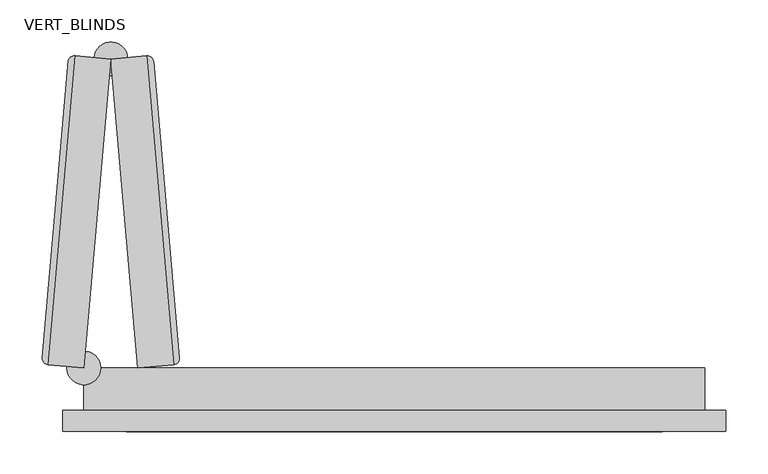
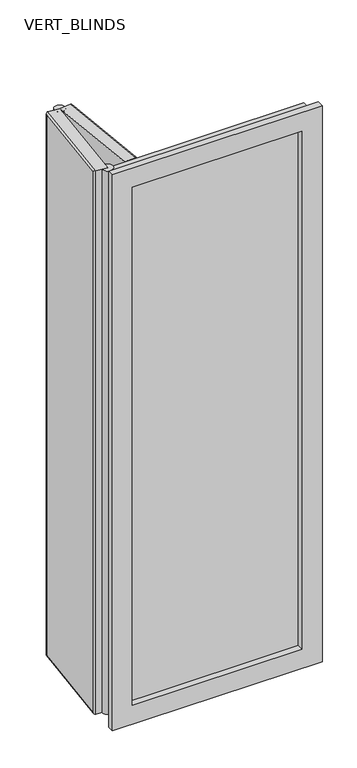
"""IFC4 building model written with IfcOpenShell, lengths in millimetres: plate geometry, CURTAIN PANEL VODA STYLE BIFOLDING : VERT_BLINDS."""

from ifc_helpers import new_model, si_unit, point, frame, frame_2d, origin, place, context, project, spatial, polyline, circle_curve, ellipse_curve, trimmed, segment, composite_curve, outline, extrude, faceted_brep, source, transform, mapped, element, save
from ifc_brep_helpers import plane_surface, cylinder_surface, advanced_brep


def vert_blinds_629a2b83(model_context):
    return source(origin(), model_context, "Body", "SolidModel", [
        advanced_brep(
        [(-367.2136473, 50.0, 2175.0), (-335.2088691, 415.8162885, 2175.0), (-377.5471438, 419.5204075, 2175.0), (-409.5519219, 53.7041191, 2175.0), (-335.2088691, 415.8162885, 25.0), (-367.2136473, 50.0, 25.0), (-409.5519219, 53.7041191, 25.0), (-377.5471438, 419.5204075, 25.0), (-416.3697141, 61.8292474, 32.5), (-416.3697141, 61.8292474, 2167.5), (-385.6722721, 412.7026154, 2167.5), (-385.6722721, 412.7026154, 32.5)],
        [
            (0, 1),
            (1, 2),
            (2, 3),
            (3, 0),
            (4, 5),
            (5, 6),
            (6, 7),
            (7, 4),
            (1, 4),
            (7, 2),
            (8, 9),
            (9, 10),
            (10, 11),
            (11, 8),
            (5, 0),
            (3, 6),
            (8, 6, ellipse_curve(frame((-408.8982539, 61.1755793, 32.5), z_axis=(-0.061628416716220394, -0.7044160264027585, 0.7071067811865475), x_axis=(-0.061628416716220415, -0.7044160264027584, -0.7071067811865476)), 10.6066017, 7.5)),
            (3, 9, ellipse_curve(frame((-408.8982539, 61.1755793, 2167.5), z_axis=(-0.061628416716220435, -0.7044160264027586, -0.7071067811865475), x_axis=(0.061628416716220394, 0.7044160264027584, -0.7071067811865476)), 10.6066017, 7.5)),
            (11, 7, ellipse_curve(frame((-378.2008118, 412.0489473, 32.5), z_axis=(-0.061628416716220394, -0.7044160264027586, -0.7071067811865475), x_axis=(0.061628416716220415, 0.7044160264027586, -0.7071067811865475)), 10.6066017, 7.5)),
            (10, 2, ellipse_curve(frame((-378.2008118, 412.0489473, 2167.5), z_axis=(0.06162841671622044, 0.7044160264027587, -0.7071067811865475), x_axis=(0.061628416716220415, 0.7044160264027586, 0.7071067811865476)), 10.6066017, 7.5)),
        ],
        [
            plane_surface(frame((-385.018604, 420.1740756, 2175.0), z_axis=(0.0, 0.0, 1.0), x_axis=(-0.9961946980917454, 0.0871557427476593, 0.0))),
            plane_surface(frame((-385.018604, 420.1740756, 25.0), z_axis=(0.0, 0.0, -1.0), x_axis=(0.9961946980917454, -0.0871557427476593, 0.0))),
            plane_surface(frame((-335.2088691, 415.8162885, 2175.0), z_axis=(0.0871557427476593, 0.9961946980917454, 0.0), x_axis=(0.0, 0.0, -1.0))),
            plane_surface(frame((-385.018604, 420.1740756, 2175.0), z_axis=(-0.9961946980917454, 0.08715574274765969, 0.0), x_axis=(0.0, 0.0, -1.0))),
            plane_surface(frame((-417.0233822, 54.3577871, 2175.0), z_axis=(-0.08715574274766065, -0.9961946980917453, 0.0), x_axis=(0.0, 0.0, -1.0))),
            plane_surface(frame((-367.2136473, 50.0, 2175.0), z_axis=(0.9961946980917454, -0.08715574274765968, 0.0), x_axis=(0.0, 0.0, -1.0))),
            cylinder_surface(frame((-408.8982539, 61.1755793, 2175.0), z_axis=(0.0, 0.0, -1.0), x_axis=(0.9961946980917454, -0.08715574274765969, 0.0)), 7.5),
            cylinder_surface(frame((-409.5519219, 53.7041191, 32.5), z_axis=(0.08715574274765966, 0.9961946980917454, 0.0), x_axis=(0.9961946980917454, -0.08715574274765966, 0.0)), 7.5),
            cylinder_surface(frame((-378.2008118, 412.0489473, 25.0), z_axis=(0.0, 0.0, 1.0), x_axis=(0.9961946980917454, -0.08715574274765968, 0.0)), 7.5),
            cylinder_surface(frame((-377.5471438, 419.5204075, 2167.5), z_axis=(-0.08715574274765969, -0.9961946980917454, 0.0), x_axis=(0.9961946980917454, -0.08715574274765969, 0.0)), 7.5),
        ],
        [
            (0, [[1, 2, 3, 4]]),
            (1, [[5, 6, 7, 8]]),
            (2, [[9, -8, 10, -2]]),
            (3, [[11, 12, 13, 14]]),
            (4, [[15, -4, 16, -6]]),
            (5, [[-1, -15, -5, -9]]),
            (6, [[17, -16, 18, -11]]),
            (7, [[-17, -14, 19, -7]]),
            (8, [[-19, -13, 20, -10]]),
            (9, [[-18, -3, -20, -12]]),
        ],
    ),
        advanced_brep(
        [(-335.2088691, 415.8162885, 2175.0), (-303.2040909, 50.0, 2175.0), (-260.8658162, 53.7041191, 2175.0), (-292.8705944, 419.5204075, 2175.0), (-303.2040909, 50.0, 25.0), (-335.2088691, 415.8162885, 25.0), (-292.8705944, 419.5204075, 25.0), (-260.8658162, 53.7041191, 25.0), (-284.7454661, 412.7026154, 32.5), (-284.7454661, 412.7026154, 2167.5), (-254.0480241, 61.8292474, 2167.5), (-254.0480241, 61.8292474, 32.5)],
        [
            (0, 1),
            (1, 2),
            (2, 3),
            (3, 0),
            (4, 5),
            (5, 6),
            (6, 7),
            (7, 4),
            (1, 4),
            (7, 2),
            (8, 9),
            (9, 10),
            (10, 11),
            (11, 8),
            (5, 0),
            (3, 6),
            (8, 6, ellipse_curve(frame((-292.2169263, 412.0489473, 32.5), z_axis=(-0.06162841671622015, 0.7044160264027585, 0.7071067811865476), x_axis=(-0.06162841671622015, 0.7044160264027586, -0.7071067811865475)), 10.6066017, 7.5)),
            (3, 9, ellipse_curve(frame((-292.2169263, 412.0489473, 2167.5), z_axis=(-0.061628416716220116, 0.7044160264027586, -0.7071067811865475), x_axis=(0.06162841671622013, -0.7044160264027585, -0.7071067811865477)), 10.6066017, 7.5)),
            (11, 7, ellipse_curve(frame((-261.5194843, 61.1755793, 32.5), z_axis=(-0.06162841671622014, 0.7044160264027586, -0.7071067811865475), x_axis=(0.06162841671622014, -0.7044160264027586, -0.7071067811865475)), 10.6066017, 7.5)),
            (10, 2, ellipse_curve(frame((-261.5194843, 61.1755793, 2167.5), z_axis=(0.06162841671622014, -0.7044160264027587, -0.7071067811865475), x_axis=(0.06162841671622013, -0.7044160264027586, 0.7071067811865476)), 10.6066017, 7.5)),
        ],
        [
            plane_surface(frame((-253.394356, 54.3577871, 2175.0), z_axis=(0.0, 0.0, 1.0), x_axis=(0.9961946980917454, 0.08715574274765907, 0.0))),
            plane_surface(frame((-253.394356, 54.3577871, 25.0), z_axis=(0.0, 0.0, -1.0), x_axis=(-0.9961946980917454, -0.08715574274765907, 0.0))),
            plane_surface(frame((-303.2040909, 50.0, 2175.0), z_axis=(0.08715574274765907, -0.9961946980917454, 0.0), x_axis=(0.0, 0.0, -1.0))),
            plane_surface(frame((-253.394356, 54.3577871, 2175.0), z_axis=(0.9961946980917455, 0.08715574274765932, 0.0), x_axis=(0.0, 0.0, -1.0))),
            plane_surface(frame((-285.3991342, 420.1740756, 2175.0), z_axis=(-0.08715574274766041, 0.9961946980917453, 0.0), x_axis=(0.0, 0.0, -1.0))),
            plane_surface(frame((-335.2088691, 415.8162885, 2175.0), z_axis=(-0.9961946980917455, -0.08715574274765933, 0.0), x_axis=(0.0, 0.0, -1.0))),
            cylinder_surface(frame((-292.2169263, 412.0489473, 2175.0), z_axis=(0.0, 0.0, -1.0000000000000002), x_axis=(-0.9961946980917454, -0.08715574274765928, 0.0)), 7.5),
            cylinder_surface(frame((-292.8705944, 419.5204075, 32.5), z_axis=(0.08715574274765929, -0.9961946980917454, 0.0), x_axis=(-0.9961946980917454, -0.08715574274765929, 0.0)), 7.5),
            cylinder_surface(frame((-261.5194843, 61.1755793, 25.0), z_axis=(0.0, 0.0, 1.0000000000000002), x_axis=(-0.9961946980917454, -0.08715574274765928, 0.0)), 7.5),
            cylinder_surface(frame((-260.8658162, 53.7041191, 2167.5), z_axis=(-0.08715574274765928, 0.9961946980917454, 0.0), x_axis=(-0.9961946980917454, -0.08715574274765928, 0.0)), 7.5),
        ],
        [
            (0, [[1, 2, 3, 4]]),
            (1, [[5, 6, 7, 8]]),
            (2, [[9, -8, 10, -2]]),
            (3, [[11, 12, 13, 14]]),
            (4, [[15, -4, 16, -6]]),
            (5, [[-1, -15, -5, -9]]),
            (6, [[17, -16, 18, -11]]),
            (7, [[-17, -14, 19, -7]]),
            (8, [[-19, -13, 20, -10]]),
            (9, [[-18, -3, -20, -12]]),
        ],
    ),
        extrude(outline(composite_curve([segment(trimmed(circle_curve(frame_2d((-367.2136473, 50.0)), 20.0), [point((-387.2136473, 50.0))], [point((-347.2136473, 50.0))], False, "CARTESIAN"), True, "CONTINUOUS"), segment(trimmed(circle_curve(frame_2d((-367.2136473, 50.0)), 20.0), [point((-347.2136473, 50.0))], [point((-387.2136473, 50.0))], False, "CARTESIAN"), True, "CONTINUOUS")], self_intersect=False)), frame((0.0, 0.0, 25.0), z_axis=(0.0, 0.0, 1.0), x_axis=(1.0, 0.0, 0.0)), (0.0, 0.0, 1.0), 2150.0),
        extrude(outline(composite_curve([segment(trimmed(circle_curve(frame_2d((-335.2088691, 415.8162885)), 20.0), [point((-336.9519839, 395.8923945))], [point((-333.4657542, 435.7401824))], False, "CARTESIAN"), True, "CONTINUOUS"), segment(trimmed(circle_curve(frame_2d((-335.2088691, 415.8162885)), 20.0), [point((-333.4657542, 435.7401824))], [point((-336.9519839, 395.8923945))], False, "CARTESIAN"), True, "CONTINUOUS")], self_intersect=False)), frame((0.0, 0.0, 25.0), z_axis=(0.0, 0.0, 1.0), x_axis=(1.0, 0.0, 0.0)), (0.0, 0.0, 1.0), 2150.0),
        extrude(outline(polyline([(-317.2136473, 24.0), (317.2136473, 24.0), (317.2136473, 0.0), (-317.2136473, 0.0), (-317.2136473, 24.0)])), frame((0.0, 0.0, 75.0), z_axis=(0.0, 0.0, 1.0), x_axis=(1.0, 0.0, 0.0)), (0.0, 0.0, 1.0), 2050.0),
        faceted_brep([(-317.2136473, 50.0, 2125.0), (-317.2136473, -25.0, 2125.0), (-317.2136473, -25.0, 75.0), (-317.2136473, 50.0, 75.0), (-392.2136473, -25.0, 2200.0), (-392.2136473, 0.0, 2200.0), (-392.2136473, 0.0, 0.0), (-392.2136473, -25.0, 0.0), (-367.2136473, 0.0, 2175.0), (-367.2136473, 50.0, 2175.0), (-367.2136473, 50.0, 25.0), (-367.2136473, 0.0, 25.0), (317.2136473, -25.0, 75.0), (317.2136473, 50.0, 75.0), (392.2136473, 0.0, 0.0), (392.2136473, -25.0, 0.0), (367.2136473, 50.0, 25.0), (367.2136473, 0.0, 25.0), (317.2136473, -25.0, 2125.0), (317.2136473, 50.0, 2125.0), (392.2136473, 0.0, 2200.0), (392.2136473, -25.0, 2200.0), (367.2136473, 50.0, 2175.0), (367.2136473, 0.0, 2175.0)], [[[0, 1, 2, 3]], [[4, 5, 6, 7]], [[8, 9, 10, 11]], [[3, 2, 12, 13]], [[7, 6, 14, 15]], [[11, 10, 16, 17]], [[13, 12, 18, 19]], [[15, 14, 20, 21]], [[17, 16, 22, 23]], [[9, 22, 16, 10], [3, 13, 19, 0]], [[19, 18, 1, 0]], [[7, 15, 21, 4], [1, 18, 12, 2]], [[21, 20, 5, 4]], [[5, 20, 14, 6], [11, 17, 23, 8]], [[23, 22, 9, 8]]]),
    ])


if __name__ == "__main__":
    model = new_model("IFC4")
    model_context = context("Model", 3, world=origin())
    ifc_project = project(units=[si_unit("LENGTHUNIT", "METRE", prefix="MILLI")], contexts=[model_context])
    site = spatial("IfcSite", under=ifc_project)
    building = spatial("IfcBuilding", under=site)
    placement = place(None, origin())
    vert_blinds_shape = vert_blinds_629a2b83(model_context)
    element("IfcPlate", 1, ObjectType="CURTAIN PANEL VODA STYLE BIFOLDING : VERT_BLINDS", at=placement, inside=building, context=model_context, shape_type="MappedRepresentation", body=[
        mapped(vert_blinds_shape, transform((0.0, 0.0, 0.0), x_axis=(1.0, 0.0, 0.0), y_axis=(0.0, 1.0, 0.0), z_axis=(0.0, 0.0, 1.0))),
    ])
    save(model, "model.ifc")
